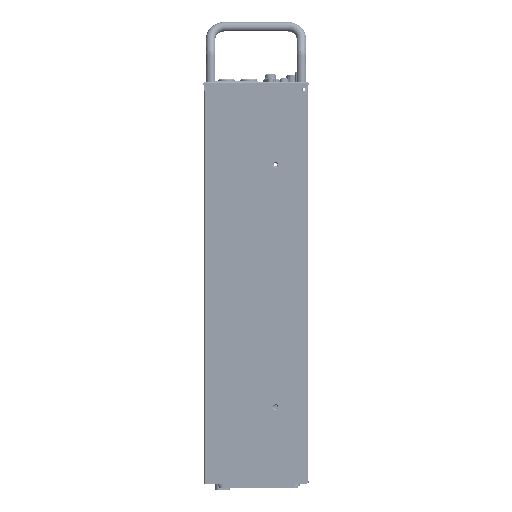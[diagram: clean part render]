
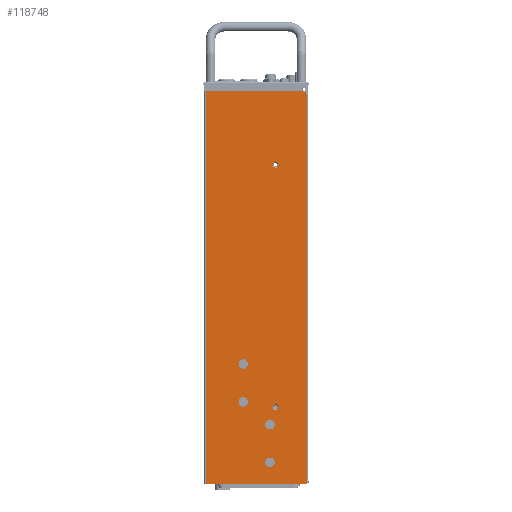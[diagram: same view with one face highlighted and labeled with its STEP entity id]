
A CAD part, left-side view. The second image highlights one B-rep face of the part: STEP entity #118748.
In plain terms, the highlighted planar face has unit normal (-1, 0, 0).
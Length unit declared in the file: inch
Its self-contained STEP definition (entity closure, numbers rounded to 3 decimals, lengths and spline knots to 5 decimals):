
#117104=DIRECTION('',(0.,1.,0.));
#117105=VECTOR('',#117104,3.212);
#117106=CARTESIAN_POINT('',(-8.726,0.12,0.));
#117107=LINE('',#117106,#117105);
#117157=CARTESIAN_POINT('',(-8.726,0.12,-0.12));
#117158=DIRECTION('',(-1.,0.,0.));
#117159=DIRECTION('',(0.,-1.,0.));
#117160=AXIS2_PLACEMENT_3D('',#117157,#117158,#117159);
#117238=CARTESIAN_POINT('',(-8.726,1.21,-12.257));
#117239=DIRECTION('',(1.,0.,0.));
#117240=DIRECTION('',(0.,0.,-1.));
#117241=AXIS2_PLACEMENT_3D('',#117238,#117239,#117240);
#117243=CARTESIAN_POINT('',(-8.726,1.21,-12.257));
#117244=DIRECTION('',(1.,0.,0.));
#117245=DIRECTION('',(0.,0.,1.));
#117246=AXIS2_PLACEMENT_3D('',#117243,#117244,#117245);
#117248=CARTESIAN_POINT('',(-8.726,1.21,-11.007));
#117249=DIRECTION('',(1.,0.,0.));
#117250=DIRECTION('',(0.,0.,-1.));
#117251=AXIS2_PLACEMENT_3D('',#117248,#117249,#117250);
#117253=CARTESIAN_POINT('',(-8.726,1.21,-11.007));
#117254=DIRECTION('',(1.,0.,0.));
#117255=DIRECTION('',(0.,0.,1.));
#117256=AXIS2_PLACEMENT_3D('',#117253,#117254,#117255);
#117258=CARTESIAN_POINT('',(-8.726,2.09,-10.257));
#117259=DIRECTION('',(1.,0.,0.));
#117260=DIRECTION('',(0.,0.,-1.));
#117261=AXIS2_PLACEMENT_3D('',#117258,#117259,#117260);
#117263=CARTESIAN_POINT('',(-8.726,2.09,-10.257));
#117264=DIRECTION('',(1.,0.,0.));
#117265=DIRECTION('',(0.,0.,1.));
#117266=AXIS2_PLACEMENT_3D('',#117263,#117264,#117265);
#117268=CARTESIAN_POINT('',(-8.726,2.09,-9.007));
#117269=DIRECTION('',(1.,0.,0.));
#117270=DIRECTION('',(0.,0.,-1.));
#117271=AXIS2_PLACEMENT_3D('',#117268,#117269,#117270);
#117273=CARTESIAN_POINT('',(-8.726,2.09,-9.007));
#117274=DIRECTION('',(1.,0.,0.));
#117275=DIRECTION('',(0.,0.,1.));
#117276=AXIS2_PLACEMENT_3D('',#117273,#117274,#117275);
#117278=DIRECTION('',(0.,0.,-1.));
#117279=VECTOR('',#117278,12.865);
#117280=CARTESIAN_POINT('',(-8.726,0.,-0.12));
#117281=LINE('',#117280,#117279);
#117454=CARTESIAN_POINT('',(-8.726,1.02,-10.431));
#117455=DIRECTION('',(1.,0.,0.));
#117456=DIRECTION('',(0.,0.,-1.));
#117457=AXIS2_PLACEMENT_3D('',#117454,#117455,#117456);
#117472=CARTESIAN_POINT('',(-8.726,1.02,-10.431));
#117473=DIRECTION('',(1.,0.,0.));
#117474=DIRECTION('',(0.,0.,1.));
#117475=AXIS2_PLACEMENT_3D('',#117472,#117473,#117474);
#117526=CARTESIAN_POINT('',(-8.726,1.02,-2.431));
#117527=DIRECTION('',(1.,0.,0.));
#117528=DIRECTION('',(0.,0.,-1.));
#117529=AXIS2_PLACEMENT_3D('',#117526,#117527,#117528);
#117536=CARTESIAN_POINT('',(-8.726,1.02,-2.431));
#117537=DIRECTION('',(1.,0.,0.));
#117538=DIRECTION('',(0.,0.,1.));
#117539=AXIS2_PLACEMENT_3D('',#117536,#117537,#117538);
#117660=DIRECTION('',(0.,1.,0.));
#117661=VECTOR('',#117660,3.332);
#117662=CARTESIAN_POINT('',(-8.726,0.,-12.985));
#117663=LINE('',#117662,#117661);
#117825=DIRECTION('',(0.,0.,1.));
#117826=VECTOR('',#117825,12.985);
#117827=CARTESIAN_POINT('',(-8.726,3.332,-12.985));
#117828=LINE('',#117827,#117826);
#118240=CARTESIAN_POINT('',(-8.726,3.332,0.));
#118241=VERTEX_POINT('',#118240);
#118242=CARTESIAN_POINT('',(-8.726,3.332,-12.985));
#118243=VERTEX_POINT('',#118242);
#118244=CARTESIAN_POINT('',(-8.726,0.,-12.985));
#118245=VERTEX_POINT('',#118244);
#118292=CARTESIAN_POINT('',(-8.726,1.21,-12.413));
#118293=CARTESIAN_POINT('',(-8.726,1.21,-12.101));
#118294=VERTEX_POINT('',#118292);
#118295=VERTEX_POINT('',#118293);
#118296=CARTESIAN_POINT('',(-8.726,1.21,-11.163));
#118297=CARTESIAN_POINT('',(-8.726,1.21,-10.851));
#118298=VERTEX_POINT('',#118296);
#118299=VERTEX_POINT('',#118297);
#118300=CARTESIAN_POINT('',(-8.726,2.09,-10.413));
#118301=CARTESIAN_POINT('',(-8.726,2.09,-10.101));
#118302=VERTEX_POINT('',#118300);
#118303=VERTEX_POINT('',#118301);
#118304=CARTESIAN_POINT('',(-8.726,2.09,-9.163));
#118305=CARTESIAN_POINT('',(-8.726,2.09,-8.851));
#118306=VERTEX_POINT('',#118304);
#118307=VERTEX_POINT('',#118305);
#118388=CARTESIAN_POINT('',(-8.726,1.02,-2.5235));
#118389=CARTESIAN_POINT('',(-8.726,1.02,-2.3385));
#118390=VERTEX_POINT('',#118388);
#118391=VERTEX_POINT('',#118389);
#118396=CARTESIAN_POINT('',(-8.726,1.02,-10.3385));
#118397=CARTESIAN_POINT('',(-8.726,1.02,-10.5235));
#118398=VERTEX_POINT('',#118396);
#118399=VERTEX_POINT('',#118397);
#118500=CARTESIAN_POINT('',(-8.726,0.12,0.));
#118502=VERTEX_POINT('',#118500);
#118506=CARTESIAN_POINT('',(-8.726,0.,-0.12));
#118507=VERTEX_POINT('',#118506);
#118698=CARTESIAN_POINT('',(-8.726,0.,0.));
#118699=DIRECTION('',(-1.,0.,0.));
#118700=DIRECTION('',(0.,1.,0.));
#118701=AXIS2_PLACEMENT_3D('',#118698,#118699,#118700);
#118702=PLANE('',#118701);
#118703=ORIENTED_EDGE('',*,*,#118610,.F.);
#118705=ORIENTED_EDGE('',*,*,#118704,.T.);
#118707=ORIENTED_EDGE('',*,*,#118706,.T.);
#118709=ORIENTED_EDGE('',*,*,#118708,.T.);
#118710=ORIENTED_EDGE('',*,*,#118563,.F.);
#118711=EDGE_LOOP('',(#118703,#118705,#118707,#118709,#118710));
#118712=FACE_OUTER_BOUND('',#118711,.F.);
#118714=ORIENTED_EDGE('',*,*,#118713,.F.);
#118716=ORIENTED_EDGE('',*,*,#118715,.F.);
#118717=EDGE_LOOP('',(#118714,#118716));
#118718=FACE_BOUND('',#118717,.F.);
#118720=ORIENTED_EDGE('',*,*,#118719,.F.);
#118722=ORIENTED_EDGE('',*,*,#118721,.F.);
#118723=EDGE_LOOP('',(#118720,#118722));
#118724=FACE_BOUND('',#118723,.F.);
#118726=ORIENTED_EDGE('',*,*,#118725,.F.);
#118728=ORIENTED_EDGE('',*,*,#118727,.F.);
#118729=EDGE_LOOP('',(#118726,#118728));
#118730=FACE_BOUND('',#118729,.F.);
#118732=ORIENTED_EDGE('',*,*,#118731,.F.);
#118734=ORIENTED_EDGE('',*,*,#118733,.F.);
#118735=EDGE_LOOP('',(#118732,#118734));
#118736=FACE_BOUND('',#118735,.F.);
#118738=ORIENTED_EDGE('',*,*,#118737,.F.);
#118740=ORIENTED_EDGE('',*,*,#118739,.F.);
#118741=EDGE_LOOP('',(#118738,#118740));
#118742=FACE_BOUND('',#118741,.F.);
#118743=ORIENTED_EDGE('',*,*,#118672,.F.);
#118745=ORIENTED_EDGE('',*,*,#118744,.F.);
#118746=EDGE_LOOP('',(#118743,#118745));
#118747=FACE_BOUND('',#118746,.F.);
#118748=ADVANCED_FACE('',(#118712,#118718,#118724,#118730,#118736,#118742,
#118747),#118702,.T.);
#117161=CIRCLE('',#117160,0.12);
#117242=CIRCLE('',#117241,0.156);
#117247=CIRCLE('',#117246,0.156);
#117252=CIRCLE('',#117251,0.156);
#117257=CIRCLE('',#117256,0.156);
#117262=CIRCLE('',#117261,0.156);
#117267=CIRCLE('',#117266,0.156);
#117272=CIRCLE('',#117271,0.156);
#117277=CIRCLE('',#117276,0.156);
#117458=CIRCLE('',#117457,0.0925);
#117476=CIRCLE('',#117475,0.0925);
#117530=CIRCLE('',#117529,0.0925);
#117540=CIRCLE('',#117539,0.0925);
#118563=EDGE_CURVE('',#118502,#118241,#117107,.T.);
#118610=EDGE_CURVE('',#118507,#118502,#117161,.T.);
#118672=EDGE_CURVE('',#118294,#118295,#117242,.T.);
#118704=EDGE_CURVE('',#118507,#118245,#117281,.T.);
#118706=EDGE_CURVE('',#118245,#118243,#117663,.T.);
#118708=EDGE_CURVE('',#118243,#118241,#117828,.T.);
#118713=EDGE_CURVE('',#118298,#118299,#117252,.T.);
#118715=EDGE_CURVE('',#118299,#118298,#117257,.T.);
#118719=EDGE_CURVE('',#118302,#118303,#117262,.T.);
#118721=EDGE_CURVE('',#118303,#118302,#117267,.T.);
#118725=EDGE_CURVE('',#118306,#118307,#117272,.T.);
#118727=EDGE_CURVE('',#118307,#118306,#117277,.T.);
#118731=EDGE_CURVE('',#118399,#118398,#117458,.T.);
#118733=EDGE_CURVE('',#118398,#118399,#117476,.T.);
#118737=EDGE_CURVE('',#118390,#118391,#117530,.T.);
#118739=EDGE_CURVE('',#118391,#118390,#117540,.T.);
#118744=EDGE_CURVE('',#118295,#118294,#117247,.T.);
